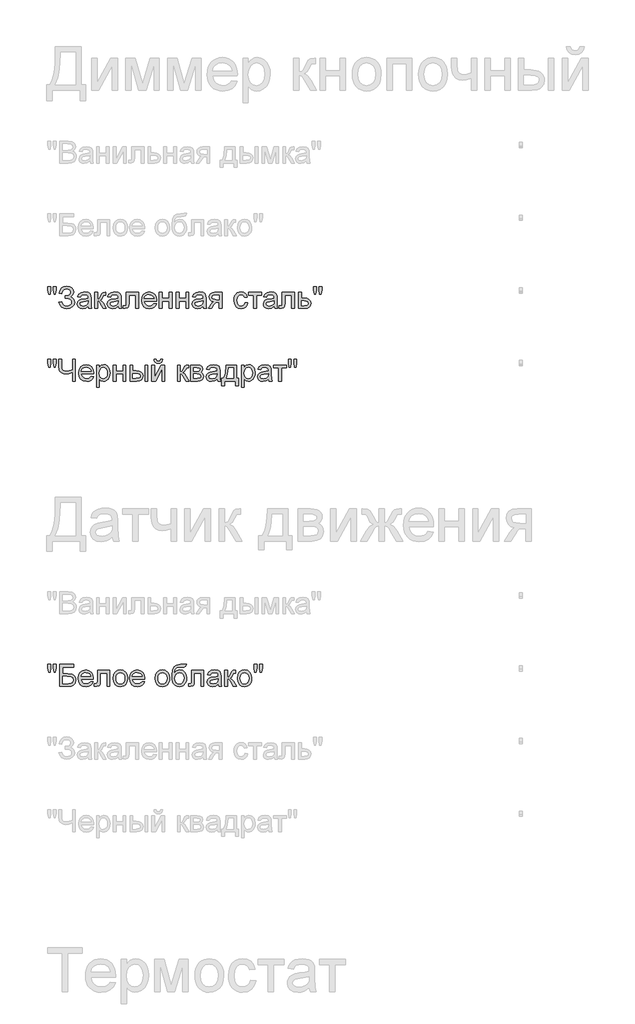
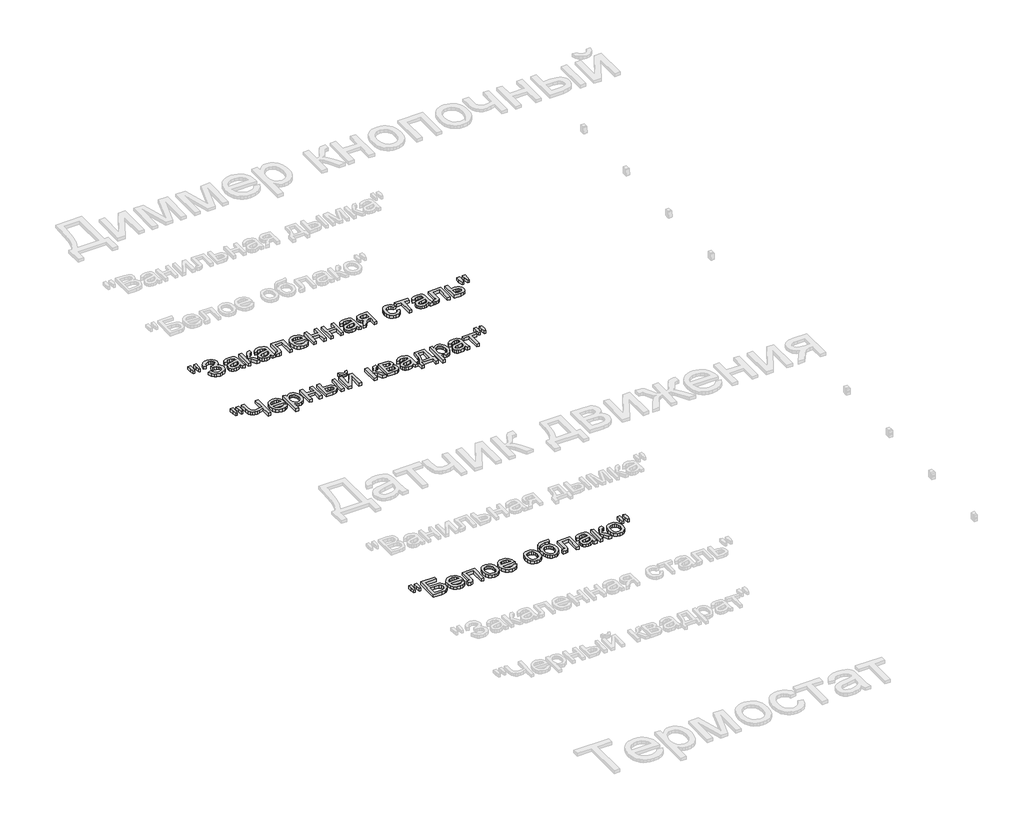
# One storey, part 14 of 168: 3 proxies.
"""IFC4 building model written with IfcOpenShell, lengths in millimetres."""

from ifc_helpers import new_model, si_unit, origin, origin_with_axes, place, context, project, spatial, polyline, outline, extrude, element, save

model = new_model("IFC4")

# Units and contexts
model_context = context("Model", 3, world=origin())
ifc_project = project(units=[si_unit("LENGTHUNIT", "METRE", prefix="MILLI")], contexts=[model_context])

# Site, building, storey
site = spatial("IfcSite", under=ifc_project)
building = spatial("IfcBuilding", under=site)
storey = spatial("IfcBuildingStorey", under=building, Name="Этаж 01", Elevation=0.0)

# Proxies
placement = place(None, origin())
element("IfcBuildingElementProxy", 1, Name="150", ObjectType="150", at=placement, inside=storey, context=model_context, shape_type="SweptSolid", body=[
    extrude(outline(polyline([(32880.1485789, -48369.2611657), (32875.550054, -48340.1616998), (32875.550054, -48315.108936), (32894.3856121, -48315.108936), (32894.3856121, -48340.1616998), (32890.2653338, -48369.2611657), (32880.1485789, -48369.2611657)])), origin_with_axes(), (0.0, 0.0, 1.0), 20.0),
    extrude(outline(polyline([(32917.7093306, -48369.2611657), (32913.2211703, -48340.1616998), (32913.2211703, -48315.108936), (32932.0567284, -48315.108936), (32932.0567284, -48340.1616998), (32927.6421445, -48369.2611657), (32917.7093306, -48369.2611657)])), origin_with_axes(), (0.0, 0.0, 1.0), 20.0),
    extrude(outline(polyline([(32950.8922866, -48423.4133953), (32969.7278447, -48418.7045058), (32981.2977335, -48439.1035624), (32992.2284273, -48446.7601065), (33006.2217387, -48449.3122878), (33020.398991, -48447.3947029), (33031.2193202, -48441.6419482), (33038.0757209, -48433.1760638), (33040.3611878, -48423.1190897), (33037.8641888, -48412.5838691), (33030.3731916, -48404.4490785), (33018.5779752, -48399.2481468), (33003.1683181, -48397.5145029), (32993.2722924, -48397.5145029), (32993.2722924, -48378.6789447), (33014.591054, -48377.1522345), (33027.6324708, -48369.3531362), (33033.2978535, -48355.0977088), (33031.4124583, -48346.2271542), (33025.7562726, -48338.5982014), (33016.8811195, -48333.3420874), (33005.3388219, -48331.5900493), (32986.1169876, -48336.9795206), (32975.117316, -48351.2717361), (32972.0822895, -48364.5522761), (32953.2467313, -48359.8433866), (32959.0983543, -48339.2419948), (32969.7002536, -48324.526715), (32985.0524291, -48315.6975472), (33005.1548809, -48312.7544912), (33024.5468605, -48315.8125103), (33039.4598769, -48324.9865675), (33048.965028, -48338.253312), (33052.1334117, -48353.5893927), (33047.2037929, -48372.2318128), (33032.4149367, -48386.1469492), (33042.8903765, -48390.9708019), (33051.5080123, -48399.1147896), (33057.2745625, -48409.8799364), (33059.196746, -48422.5672668), (33055.508729, -48440.404945), (33044.444678, -48455.069641), (33027.2921799, -48464.8782947), (33005.3388219, -48468.147846), (32986.2365493, -48465.3519428), (32970.7947025, -48456.9642333), (32959.0132816, -48442.9847175), (32950.8922866, -48423.4133953)])), origin_with_axes(), (0.0, 0.0, 1.0), 20.0),
    extrude(outline(polyline([(33153.3745367, -48451.6667326), (33135.1091957, -48464.4322378), (33114.9308682, -48468.147846), (33099.1901174, -48465.9129628), (33087.5788419, -48459.2083135), (33080.4189386, -48449.0271793), (33078.0323041, -48436.3628416), (33081.6375477, -48421.4636208), (33091.110509, -48410.6478901), (33104.2990786, -48404.4674726), (33120.596251, -48401.6347812), (33153.2641721, -48395.1600581), (33153.3745367, -48390.9662034), (33152.0777527, -48382.5600998), (33148.1874006, -48377.060264), (33139.4869914, -48372.9767738), (33127.3652797, -48371.6156104), (33108.3089923, -48375.2392481), (33099.222307, -48388.0967238), (33080.3867489, -48385.742279), (33088.5353351, -48367.3481793), (33104.9428721, -48356.5692368), (33129.7933008, -48352.7800523), (33152.6203786, -48356.1277784), (33165.5146426, -48364.533882), (33171.2903899, -48377.3177814), (33172.2100949, -48393.7988947), (33172.2100949, -48417.2329778), (33173.1665881, -48449.9560813), (33176.9189844, -48465.7934012), (33158.0834263, -48465.7934012), (33153.3745367, -48451.6667326)]), holes=[polyline([(33153.3745367, -48413.9956163), (33122.9874839, -48419.7713636), (33106.782282, -48422.8247842), (33099.4430362, -48427.7911911), (33096.8678623, -48435.0384664), (33102.4780627, -48445.2287977), (33118.940782, -48449.3122878), (33137.9970693, -48444.8057334), (33150.284328, -48433.8980322), (33153.2641721, -48419.3299052), (33153.3745367, -48413.9956163)])]), origin_with_axes(), (0.0, 0.0, 1.0), 20.0),
    extrude(outline(polyline([(33198.1089873, -48355.134497), (33216.9445455, -48355.134497), (33216.9445455, -48402.2233924), (33229.5628979, -48398.8388781), (33239.900382, -48379.1204031), (33248.4904266, -48362.1058608), (33256.0687957, -48356.5692368), (33269.8459764, -48355.134497), (33273.4512199, -48355.134497), (33273.4512199, -48374.0804198), (33268.3744484, -48373.9700552), (33259.1773985, -48375.956618), (33252.7026754, -48388.3542412), (33245.1059122, -48401.7635399), (33234.4557285, -48408.3302335), (33246.3383169, -48415.6602823), (33258.0001762, -48431.102129), (33278.1601095, -48465.7934012), (33256.7493774, -48465.7934012), (33236.9941142, -48431.837893), (33227.0613004, -48417.4721011), (33216.9445455, -48413.9956163), (33216.9445455, -48465.7934012), (33198.1089873, -48465.7934012), (33198.1089873, -48355.134497)])), origin_with_axes(), (0.0, 0.0, 1.0), 20.0),
    extrude(outline(polyline([(33360.5656764, -48451.6667326), (33342.3003353, -48464.4322378), (33322.1220079, -48468.147846), (33306.381257, -48465.9129628), (33294.7699816, -48459.2083135), (33287.6100782, -48449.0271793), (33285.2234438, -48436.3628416), (33288.8286873, -48421.4636208), (33298.3016487, -48410.6478901), (33311.4902183, -48404.4674726), (33327.7873906, -48401.6347812), (33360.4553118, -48395.1600581), (33360.5656764, -48390.9662034), (33359.2688924, -48382.5600998), (33355.3785403, -48377.060264), (33346.6781311, -48372.9767738), (33334.5564193, -48371.6156104), (33315.500132, -48375.2392481), (33306.4134467, -48388.0967238), (33287.5778886, -48385.742279), (33295.7264748, -48367.3481793), (33312.1340117, -48356.5692368), (33336.9844405, -48352.7800523), (33359.8115183, -48356.1277784), (33372.7057822, -48364.533882), (33378.4815296, -48377.3177814), (33379.4012346, -48393.7988947), (33379.4012346, -48417.2329778), (33380.3577277, -48449.9560813), (33384.1101241, -48465.7934012), (33365.2745659, -48465.7934012), (33360.5656764, -48451.6667326)]), holes=[polyline([(33360.5656764, -48413.9956163), (33330.1786236, -48419.7713636), (33313.9734217, -48422.8247842), (33306.6341759, -48427.7911911), (33304.0590019, -48435.0384664), (33309.6692024, -48445.2287977), (33326.1319217, -48449.3122878), (33345.188209, -48444.8057334), (33357.4754676, -48433.8980322), (33360.4553118, -48419.3299052), (33360.5656764, -48413.9956163)])]), origin_with_axes(), (0.0, 0.0, 1.0), 20.0),
    extrude(outline(polyline([(33414.7179061, -48355.134497), (33499.4779178, -48355.134497), (33499.4779178, -48465.6830366), (33480.6423596, -48465.6830366), (33480.6423596, -48373.9700552), (33433.5534643, -48373.9700552), (33433.5534643, -48426.7611215), (33432.2842714, -48451.1149096), (33425.3129076, -48461.3972113), (33408.8317942, -48465.7934012), (33393.5279032, -48464.836908), (33393.5279032, -48446.957843), (33401.9524009, -48446.957843), (33410.4688691, -48445.7990148), (33413.8717775, -48442.1201948), (33414.7179061, -48425.6942637), (33414.7179061, -48355.134497)])), origin_with_axes(), (0.0, 0.0, 1.0), 20.0),
    extrude(outline(polyline([(33605.2072032, -48432.8311744), (33623.6748794, -48435.1856192), (33617.0208138, -48449.1007557), (33606.4028197, -48459.5026191), (33592.0600204, -48465.9865392), (33574.2315392, -48468.147846), (33552.1310283, -48464.4184422), (33535.1256831, -48453.2302311), (33524.2823613, -48435.3097794), (33520.6679207, -48411.3836541), (33524.3191495, -48386.652787), (33535.2728359, -48368.1575197), (33552.0482549, -48356.6244191), (33573.1646814, -48352.7800523), (33593.6235189, -48356.6152221), (33609.971275, -48368.1207315), (33620.6904367, -48386.5792106), (33624.2634906, -48411.2732895), (33624.153126, -48416.350061), (33539.5034789, -48416.350061), (33542.763833, -48430.4491385), (33550.3376036, -48440.8142137), (33561.2682974, -48447.1877693), (33574.5994212, -48449.3122878), (33593.0670974, -48445.3759505), (33605.2072032, -48432.8311744)]), holes=[polyline([(33539.5034789, -48397.5145029), (33605.4279324, -48397.5145029), (33602.8803496, -48387.5632949), (33597.8863515, -48380.4447783), (33586.9050739, -48373.8229024), (33573.091105, -48371.6156104), (33560.3945777, -48373.3768455), (33549.8961452, -48378.6605506), (33542.5982861, -48386.8965088), (33539.5034789, -48397.5145029)])]), origin_with_axes(), (0.0, 0.0, 1.0), 20.0),
    extrude(outline(polyline([(33643.0990487, -48355.134497), (33661.9346069, -48355.134497), (33661.9346069, -48397.5145029), (33711.377947, -48397.5145029), (33711.377947, -48355.134497), (33730.2135052, -48355.134497), (33730.2135052, -48465.7934012), (33711.377947, -48465.7934012), (33711.377947, -48416.350061), (33661.9346069, -48416.350061), (33661.9346069, -48465.7934012), (33643.0990487, -48465.7934012), (33643.0990487, -48355.134497)])), origin_with_axes(), (0.0, 0.0, 1.0), 20.0),
    extrude(outline(polyline([(33758.4668424, -48355.134497), (33777.3024005, -48355.134497), (33777.3024005, -48397.5145029), (33826.7457407, -48397.5145029), (33826.7457407, -48355.134497), (33845.5812988, -48355.134497), (33845.5812988, -48465.7934012), (33826.7457407, -48465.7934012), (33826.7457407, -48416.350061), (33777.3024005, -48416.350061), (33777.3024005, -48465.7934012), (33758.4668424, -48465.7934012), (33758.4668424, -48355.134497)])), origin_with_axes(), (0.0, 0.0, 1.0), 20.0),
    extrude(outline(polyline([(33944.4679792, -48451.6667326), (33926.2026381, -48464.4322378), (33906.0243107, -48468.147846), (33890.2835598, -48465.9129628), (33878.6722843, -48459.2083135), (33871.512381, -48449.0271793), (33869.1257465, -48436.3628416), (33872.7309901, -48421.4636208), (33882.2039515, -48410.6478901), (33895.392521, -48404.4674726), (33911.6896934, -48401.6347812), (33944.3576146, -48395.1600581), (33944.4679792, -48390.9662034), (33943.1711951, -48382.5600998), (33939.280843, -48377.060264), (33930.5804338, -48372.9767738), (33918.4587221, -48371.6156104), (33899.4024347, -48375.2392481), (33890.3157495, -48388.0967238), (33871.4801913, -48385.742279), (33879.6287775, -48367.3481793), (33896.0363145, -48356.5692368), (33920.8867433, -48352.7800523), (33943.7138211, -48356.1277784), (33956.608085, -48364.533882), (33962.3838323, -48377.3177814), (33963.3035373, -48393.7988947), (33963.3035373, -48417.2329778), (33964.2600305, -48449.9560813), (33968.0124268, -48465.7934012), (33949.1768687, -48465.7934012), (33944.4679792, -48451.6667326)]), holes=[polyline([(33944.4679792, -48413.9956163), (33914.0809264, -48419.7713636), (33897.8757245, -48422.8247842), (33890.5364787, -48427.7911911), (33887.9613047, -48435.0384664), (33893.5715051, -48445.2287977), (33910.0342244, -48449.3122878), (33929.0905118, -48444.8057334), (33941.3777704, -48433.8980322), (33944.3576146, -48419.3299052), (33944.4679792, -48413.9956163)])]), origin_with_axes(), (0.0, 0.0, 1.0), 20.0),
    extrude(outline(polyline([(34073.9624415, -48355.134497), (34073.9624415, -48465.7934012), (34055.1268833, -48465.7934012), (34055.1268833, -48423.4133953), (34044.8629756, -48423.4133953), (34030.8834598, -48425.8046283), (34017.7500726, -48441.8810715), (34002.7404872, -48465.7934012), (33980.9618731, -48465.7934012), (33999.8710076, -48435.5535012), (34008.2219289, -48424.7009823), (34015.9106626, -48419.8817282), (34003.0347928, -48415.9361938), (33993.9848957, -48408.4405981), (33988.6322127, -48398.4709961), (33986.847985, -48387.1034424), (33989.2852032, -48374.2091785), (33996.5968579, -48364.0004531), (34008.5254316, -48357.3509861), (34024.8134069, -48355.134497), (34073.9624415, -48355.134497)]), holes=[polyline([(34055.1268833, -48373.9700552), (34030.2948486, -48373.9700552), (34017.4695626, -48375.0599056), (34010.1900976, -48378.3294568), (34005.6835431, -48388.5381822), (34007.3436107, -48395.7164796), (34012.3238132, -48400.6966821), (34035.8498668, -48404.5778372), (34055.1268833, -48404.5778372), (34055.1268833, -48373.9700552)])]), origin_with_axes(), (0.0, 0.0, 1.0), 20.0),
    extrude(outline(polyline([(34231.710241, -48425.7678401), (34250.5457991, -48428.1222849), (34245.2942837, -48444.8747112), (34235.4258491, -48457.5344504), (34221.8693976, -48465.4944971), (34205.5538311, -48468.147846), (34185.518058, -48464.4460334), (34169.8508835, -48453.3405957), (34159.7387272, -48435.3189764), (34156.3680084, -48410.8686193), (34157.8073467, -48394.1069959), (34162.1253616, -48379.5802556), (34169.391031, -48367.8494185), (34179.6733328, -48359.4755046), (34191.974387, -48354.4539153), (34205.2963137, -48352.7800523), (34221.2118085, -48355.0793147), (34233.9359271, -48361.9771022), (34243.0639991, -48373.1055325), (34248.1913544, -48388.0967238), (34229.3557962, -48390.4511686), (34220.6185988, -48376.3428941), (34205.4434665, -48371.6156104), (34193.271171, -48373.942464), (34183.6096701, -48380.9230249), (34177.3050924, -48392.934372), (34175.2035665, -48410.3535845), (34177.2591072, -48428.0073218), (34183.4257291, -48440.0600556), (34192.9124861, -48446.9992298), (34204.9284317, -48449.3122878), (34214.6819031, -48447.868351), (34222.678738, -48443.5365405), (34228.4958721, -48436.2064917), (34231.710241, -48425.7678401)])), origin_with_axes(), (0.0, 0.0, 1.0), 20.0),
    extrude(outline(polyline([(34257.6091334, -48355.134497), (34347.0780347, -48355.134497), (34347.0780347, -48373.9700552), (34311.7613631, -48373.9700552), (34311.7613631, -48465.7934012), (34292.925805, -48465.7934012), (34292.925805, -48373.9700552), (34257.6091334, -48373.9700552), (34257.6091334, -48355.134497)])), origin_with_axes(), (0.0, 0.0, 1.0), 20.0),
    extrude(outline(polyline([(34434.1924911, -48451.6667326), (34415.9271501, -48464.4322378), (34395.7488226, -48468.147846), (34380.0080718, -48465.9129628), (34368.3967963, -48459.2083135), (34361.236893, -48449.0271793), (34358.8502585, -48436.3628416), (34362.4555021, -48421.4636208), (34371.9284634, -48410.6478901), (34385.117033, -48404.4674726), (34401.4142054, -48401.6347812), (34434.0821265, -48395.1600581), (34434.1924911, -48390.9662034), (34432.8957071, -48382.5600998), (34429.005355, -48377.060264), (34420.3049458, -48372.9767738), (34408.1832341, -48371.6156104), (34389.1269467, -48375.2392481), (34380.0402614, -48388.0967238), (34361.2047033, -48385.742279), (34369.3532895, -48367.3481793), (34385.7608265, -48356.5692368), (34410.6112552, -48352.7800523), (34433.438333, -48356.1277784), (34446.332597, -48364.533882), (34452.1083443, -48377.3177814), (34453.0280493, -48393.7988947), (34453.0280493, -48417.2329778), (34453.9845425, -48449.9560813), (34457.7369388, -48465.7934012), (34438.9013807, -48465.7934012), (34434.1924911, -48451.6667326)]), holes=[polyline([(34434.1924911, -48413.9956163), (34403.8054383, -48419.7713636), (34387.6002364, -48422.8247842), (34380.2609906, -48427.7911911), (34377.6858167, -48435.0384664), (34383.2960171, -48445.2287977), (34399.7587364, -48449.3122878), (34418.8150237, -48444.8057334), (34431.1022824, -48433.8980322), (34434.0821265, -48419.3299052), (34434.1924911, -48413.9956163)])]), origin_with_axes(), (0.0, 0.0, 1.0), 20.0),
    extrude(outline(polyline([(34488.3447208, -48355.134497), (34573.1047325, -48355.134497), (34573.1047325, -48465.6830366), (34554.2691744, -48465.6830366), (34554.2691744, -48373.9700552), (34507.180279, -48373.9700552), (34507.180279, -48426.7611215), (34505.9110861, -48451.1149096), (34498.9397223, -48461.3972113), (34482.4586089, -48465.7934012), (34467.1547179, -48464.836908), (34467.1547179, -48446.957843), (34475.5792156, -48446.957843), (34484.0956838, -48445.7990148), (34487.4985922, -48442.1201948), (34488.3447208, -48425.6942637), (34488.3447208, -48355.134497)])), origin_with_axes(), (0.0, 0.0, 1.0), 20.0),
    extrude(outline(polyline([(34601.3580697, -48355.134497), (34620.1936279, -48355.134497), (34620.1936279, -48395.1600581), (34641.8986656, -48395.1600581), (34660.7158297, -48397.5191014), (34674.6401632, -48404.5962313), (34683.2486019, -48415.8212307), (34686.1180814, -48430.6238825), (34683.6762647, -48444.102159), (34676.3508145, -48455.4743112), (34663.6542871, -48463.2136287), (34645.099239, -48465.7934012), (34601.3580697, -48465.7934012), (34601.3580697, -48355.134497)]), holes=[polyline([(34620.1936279, -48446.957843), (34637.7783873, -48446.957843), (34660.4951005, -48443.0031116), (34665.5856676, -48437.9401356), (34667.2825233, -48430.6606707), (34662.260934, -48419.0723878), (34654.1905228, -48415.2648092), (34640.0224674, -48413.9956163), (34620.1936279, -48413.9956163), (34620.1936279, -48446.957843)])]), origin_with_axes(), (0.0, 0.0, 1.0), 20.0),
    extrude(outline(polyline([(34709.5521645, -48369.2611657), (34704.9536396, -48340.1616998), (34704.9536396, -48315.108936), (34723.7891977, -48315.108936), (34723.7891977, -48340.1616998), (34719.6689194, -48369.2611657), (34709.5521645, -48369.2611657)])), origin_with_axes(), (0.0, 0.0, 1.0), 20.0),
    extrude(outline(polyline([(34747.1129162, -48369.2611657), (34742.6247559, -48340.1616998), (34742.6247559, -48315.108936), (34761.460314, -48315.108936), (34761.460314, -48340.1616998), (34757.0457301, -48369.2611657), (34747.1129162, -48369.2611657)])), origin_with_axes(), (0.0, 0.0, 1.0), 20.0),
])
element("IfcBuildingElementProxy", 2, Name="150", ObjectType="150", at=placement, inside=storey, context=model_context, shape_type="SweptSolid", body=[
    extrude(outline(polyline([(32880.1485789, -48869.2611657), (32875.550054, -48840.1616998), (32875.550054, -48815.108936), (32894.3856121, -48815.108936), (32894.3856121, -48840.1616998), (32890.2653338, -48869.2611657), (32880.1485789, -48869.2611657)])), origin_with_axes(), (0.0, 0.0, 1.0), 20.0),
    extrude(outline(polyline([(32917.7093306, -48869.2611657), (32913.2211703, -48840.1616998), (32913.2211703, -48815.108936), (32932.0567284, -48815.108936), (32932.0567284, -48840.1616998), (32927.6421445, -48869.2611657), (32917.7093306, -48869.2611657)])), origin_with_axes(), (0.0, 0.0, 1.0), 20.0),
    extrude(outline(polyline([(33063.9056355, -48965.7934012), (33045.0700773, -48965.7934012), (33045.0700773, -48905.460754), (33020.0908899, -48913.6277343), (32998.4226404, -48916.350061), (32983.7395502, -48914.4876584), (32970.886673, -48908.9004506), (32960.926268, -48900.4483618), (32954.9205944, -48889.9913161), (32950.8922866, -48859.9905394), (32950.8922866, -48815.108936), (32969.7278447, -48815.108936), (32969.7278447, -48857.4521536), (32971.990319, -48877.8190206), (32978.7777418, -48889.7705869), (32988.7381468, -48895.5785239), (33000.5195677, -48897.5145029), (33022.2521966, -48895.1784522), (33045.0700773, -48888.1703002), (33045.0700773, -48815.108936), (33063.9056355, -48815.108936), (33063.9056355, -48965.7934012)])), origin_with_axes(), (0.0, 0.0, 1.0), 20.0),
    extrude(outline(polyline([(33171.9893657, -48932.8311744), (33190.4570418, -48935.1856192), (33183.8029763, -48949.1007557), (33173.1849822, -48959.5026191), (33158.8421829, -48965.9865392), (33141.0137017, -48968.147846), (33118.9131908, -48964.4184422), (33101.9078456, -48953.2302311), (33091.0645238, -48935.3097794), (33087.4500832, -48911.3836541), (33091.101312, -48886.652787), (33102.0549984, -48868.1575197), (33118.8304174, -48856.6244191), (33139.9468439, -48852.7800523), (33160.4056814, -48856.6152221), (33176.7534375, -48868.1207315), (33187.4725992, -48886.5792106), (33191.045653, -48911.2732895), (33190.9352884, -48916.350061), (33106.2856413, -48916.350061), (33109.5459955, -48930.4491385), (33117.1197661, -48940.8142137), (33128.0504599, -48947.1877693), (33141.3815837, -48949.3122878), (33159.8492598, -48945.3759505), (33171.9893657, -48932.8311744)]), holes=[polyline([(33106.2856413, -48897.5145029), (33172.2100949, -48897.5145029), (33169.6625121, -48887.5632949), (33164.668514, -48880.4447783), (33153.6872364, -48873.8229024), (33139.8732675, -48871.6156104), (33127.1767401, -48873.3768455), (33116.6783077, -48878.6605506), (33109.3804486, -48886.8965088), (33106.2856413, -48897.5145029)])]), origin_with_axes(), (0.0, 0.0, 1.0), 20.0),
    extrude(outline(polyline([(33209.8812112, -49008.173407), (33209.8812112, -48855.134497), (33228.7167693, -48855.134497), (33228.7167693, -48873.6021732), (33241.739792, -48857.9855825), (33259.3245513, -48852.7800523), (33272.0624654, -48854.6010681), (33283.2000928, -48860.0641158), (33292.268384, -48868.8381014), (33298.7982894, -48880.5919311), (33304.0590019, -48909.6178205), (33302.5736784, -48925.7264534), (33298.1177077, -48940.133632), (33290.8336442, -48952.108191), (33280.8640422, -48960.9189648), (33269.2527667, -48966.3406257), (33257.043683, -48968.147846), (33240.6545401, -48963.3101977), (33228.7167693, -48951.0781214), (33228.7167693, -49008.173407), (33209.8812112, -49008.173407)]), holes=[polyline([(33228.7167693, -48911.3468659), (33230.7539159, -48928.2326495), (33236.8653555, -48940.0416615), (33245.8830629, -48946.9946312), (33256.6390128, -48949.3122878), (33267.5697066, -48946.9118578), (33276.8173402, -48939.7105677), (33283.1219179, -48927.4692943), (33285.2234438, -48909.9489143), (33283.1725017, -48893.1551012), (33277.0196753, -48881.1805423), (33268.0157635, -48874.0068434), (33257.411565, -48871.6156104), (33246.7659797, -48874.1585947), (33237.4171785, -48881.7875476), (33230.8918716, -48894.2633458), (33228.7167693, -48911.3468659)])]), origin_with_axes(), (0.0, 0.0, 1.0), 20.0),
    extrude(outline(polyline([(33325.2490049, -48855.134497), (33344.084563, -48855.134497), (33344.084563, -48897.5145029), (33393.5279032, -48897.5145029), (33393.5279032, -48855.134497), (33412.3634613, -48855.134497), (33412.3634613, -48965.7934012), (33393.5279032, -48965.7934012), (33393.5279032, -48916.350061), (33344.084563, -48916.350061), (33344.084563, -48965.7934012), (33325.2490049, -48965.7934012), (33325.2490049, -48855.134497)])), origin_with_axes(), (0.0, 0.0, 1.0), 20.0),
    extrude(outline(polyline([(33544.2123684, -48855.134497), (33563.0479266, -48855.134497), (33563.0479266, -48965.7934012), (33544.2123684, -48965.7934012), (33544.2123684, -48855.134497)])), origin_with_axes(), (0.0, 0.0, 1.0), 20.0),
    extrude(outline(polyline([(33440.6167986, -48855.134497), (33459.4523567, -48855.134497), (33459.4523567, -48895.1600581), (33482.739287, -48895.1600581), (33502.8670307, -48897.5191014), (33517.780047, -48904.5962313), (33527.0092866, -48915.8212307), (33530.0856998, -48930.6238825), (33527.5059273, -48944.102159), (33519.7666098, -48955.4743112), (33506.3619096, -48963.2136287), (33486.785989, -48965.7934012), (33440.6167986, -48965.7934012), (33440.6167986, -48855.134497)]), holes=[polyline([(33459.4523567, -48946.957843), (33478.8029497, -48946.957843), (33503.7821371, -48943.0031116), (33509.3831405, -48937.9401356), (33511.2501416, -48930.6606707), (33505.7135176, -48919.0723878), (33496.8337659, -48915.2648092), (33481.267759, -48913.9956163), (33459.4523567, -48913.9956163), (33459.4523567, -48946.957843)])]), origin_with_axes(), (0.0, 0.0, 1.0), 20.0),
    extrude(outline(polyline([(33591.3012638, -48855.134497), (33610.1368219, -48855.134497), (33610.1368219, -48939.5266267), (33656.4163769, -48855.134497), (33680.770165, -48855.134497), (33680.770165, -48965.7934012), (33661.9346069, -48965.7934012), (33661.9346069, -48881.9163063), (33615.9493575, -48965.7934012), (33591.3012638, -48965.7934012), (33591.3012638, -48855.134497)])), origin_with_axes(), (0.0, 0.0, 1.0), 20.0),
    extrude(outline(polyline([(33652.5168278, -48815.108936), (33666.6434964, -48815.108936), (33663.6038714, -48827.1708669), (33657.5016288, -48836.0598156), (33648.6126801, -48841.5366588), (33637.2129368, -48843.3622732), (33624.8429047, -48841.5504544), (33615.2503817, -48836.1149979), (33608.6928851, -48827.2398448), (33605.4279324, -48815.108936), (33619.554601, -48815.108936), (33624.8521017, -48825.7223315), (33635.5206796, -48829.2356046), (33647.219327, -48825.8326961), (33652.5168278, -48815.108936)])), origin_with_axes(), (0.0, 0.0, 1.0), 20.0),
    extrude(outline(polyline([(33767.8846215, -48855.134497), (33786.7201796, -48855.134497), (33786.7201796, -48902.2233924), (33799.3385321, -48898.8388781), (33809.6760161, -48879.1204031), (33818.2660607, -48862.1058608), (33825.8444298, -48856.5692368), (33839.6216105, -48855.134497), (33843.2268541, -48855.134497), (33843.2268541, -48874.0804198), (33838.1500825, -48873.9700552), (33828.9530327, -48875.956618), (33822.4783096, -48888.3542412), (33814.8815464, -48901.7635399), (33804.2313626, -48908.3302335), (33816.113951, -48915.6602823), (33827.7758103, -48931.102129), (33847.9357436, -48965.7934012), (33826.5250115, -48965.7934012), (33806.7697484, -48931.837893), (33796.8369345, -48917.4721011), (33786.7201796, -48913.9956163), (33786.7201796, -48965.7934012), (33767.8846215, -48965.7934012), (33767.8846215, -48855.134497)])), origin_with_axes(), (0.0, 0.0, 1.0), 20.0),
    extrude(outline(polyline([(33859.7079675, -48855.134497), (33901.2050565, -48855.134497), (33923.9585579, -48857.6544887), (33936.7608514, -48866.8883268), (33942.1135344, -48882.9831641), (33938.8761728, -48896.061369), (33929.1273, -48905.3871776), (33941.7824406, -48915.5959029), (33946.8224239, -48933.3462092), (33943.6310476, -48947.7028041), (33936.0434815, -48957.8103619), (33924.0321343, -48963.7976414), (33907.569415, -48965.7934012), (33859.7079675, -48965.7934012), (33859.7079675, -48855.134497)]), holes=[polyline([(33878.5435256, -48897.5145029), (33897.1583546, -48897.5145029), (33912.5174279, -48896.5580097), (33919.9854324, -48892.7320369), (33923.2779762, -48885.8158554), (33921.8340394, -48880.196458), (33917.5022289, -48876.5820174), (33897.7469658, -48873.9700552), (33878.5435256, -48873.9700552), (33878.5435256, -48897.5145029)]), polyline([(33878.5435256, -48946.957843), (33901.6465149, -48946.957843), (33922.137542, -48943.5549346), (33926.377382, -48938.9150229), (33927.9868658, -48931.8011048), (33924.7678983, -48922.7328137), (33916.3801888, -48917.453707), (33899.8071049, -48916.350061), (33878.5435256, -48916.350061), (33878.5435256, -48946.957843)])]), origin_with_axes(), (0.0, 0.0, 1.0), 20.0),
    extrude(outline(polyline([(34041.0002147, -48951.6667326), (34022.7348736, -48964.4322378), (34002.5565462, -48968.147846), (33986.8157953, -48965.9129628), (33975.2045198, -48959.2083135), (33968.0446165, -48949.0271793), (33965.6579821, -48936.3628416), (33969.2632256, -48921.4636208), (33978.736187, -48910.6478901), (33991.9247565, -48904.4674726), (34008.2219289, -48901.6347812), (34040.8898501, -48895.1600581), (34041.0002147, -48890.9662034), (34039.7034307, -48882.5600998), (34035.8130786, -48877.060264), (34027.1126694, -48872.9767738), (34014.9909576, -48871.6156104), (33995.9346703, -48875.2392481), (33986.847985, -48888.0967238), (33968.0124268, -48885.742279), (33976.161013, -48867.3481793), (33992.56855, -48856.5692368), (34017.4189788, -48852.7800523), (34040.2460566, -48856.1277784), (34053.1403205, -48864.533882), (34058.9160679, -48877.3177814), (34059.8357728, -48893.7988947), (34059.8357728, -48917.2329778), (34060.792266, -48949.9560813), (34064.5446624, -48965.7934012), (34045.7091042, -48965.7934012), (34041.0002147, -48951.6667326)]), holes=[polyline([(34041.0002147, -48913.9956163), (34010.6131619, -48919.7713636), (33994.40796, -48922.8247842), (33987.0687142, -48927.7911911), (33984.4935402, -48935.0384664), (33990.1037407, -48945.2287977), (34006.5664599, -48949.3122878), (34025.6227473, -48944.8057334), (34037.9100059, -48933.8980322), (34040.8898501, -48919.3299052), (34041.0002147, -48913.9956163)])]), origin_with_axes(), (0.0, 0.0, 1.0), 20.0),
    extrude(outline(polyline([(34102.2157787, -48855.134497), (34172.8491218, -48855.134497), (34172.8491218, -48946.957843), (34186.9757904, -48946.957843), (34186.9757904, -48996.4011832), (34168.1402322, -48996.4011832), (34168.1402322, -48965.7934012), (34090.4435548, -48965.7934012), (34090.4435548, -48996.4011832), (34071.6079967, -48996.4011832), (34071.6079967, -48946.957843), (34083.3802205, -48946.957843), (34091.9380754, -48931.4930037), (34097.9299534, -48911.0341662), (34102.2157787, -48855.134497)]), holes=[polyline([(34118.6968921, -48873.9700552), (34114.2823081, -48916.8834899), (34104.5702235, -48946.957843), (34154.0135636, -48946.957843), (34154.0135636, -48873.9700552), (34118.6968921, -48873.9700552)])]), origin_with_axes(), (0.0, 0.0, 1.0), 20.0),
    extrude(outline(polyline([(34208.1657933, -49008.173407), (34208.1657933, -48855.134497), (34227.0013514, -48855.134497), (34227.0013514, -48873.6021732), (34240.0243741, -48857.9855825), (34257.6091334, -48852.7800523), (34270.3470475, -48854.6010681), (34281.4846749, -48860.0641158), (34290.5529661, -48868.8381014), (34297.0828715, -48880.5919311), (34302.3435841, -48909.6178205), (34300.8582605, -48925.7264534), (34296.4022898, -48940.133632), (34289.1182263, -48952.108191), (34279.1486243, -48960.9189648), (34267.5373488, -48966.3406257), (34255.3282651, -48968.147846), (34238.9391222, -48963.3101977), (34227.0013514, -48951.0781214), (34227.0013514, -49008.173407), (34208.1657933, -49008.173407)]), holes=[polyline([(34227.0013514, -48911.3468659), (34229.038498, -48928.2326495), (34235.1499376, -48940.0416615), (34244.167645, -48946.9946312), (34254.9235949, -48949.3122878), (34265.8542887, -48946.9118578), (34275.1019223, -48939.7105677), (34281.4065, -48927.4692943), (34283.5080259, -48909.9489143), (34281.4570838, -48893.1551012), (34275.3042574, -48881.1805423), (34266.3003456, -48874.0068434), (34255.6961471, -48871.6156104), (34245.0505618, -48874.1585947), (34235.7017606, -48881.7875476), (34229.1764537, -48894.2633458), (34227.0013514, -48911.3468659)])]), origin_with_axes(), (0.0, 0.0, 1.0), 20.0),
    extrude(outline(polyline([(34394.1669301, -48951.6667326), (34375.901589, -48964.4322378), (34355.7232616, -48968.147846), (34339.9825107, -48965.9129628), (34328.3712352, -48959.2083135), (34321.2113319, -48949.0271793), (34318.8246974, -48936.3628416), (34322.429941, -48921.4636208), (34331.9029024, -48910.6478901), (34345.0914719, -48904.4674726), (34361.3886443, -48901.6347812), (34394.0565655, -48895.1600581), (34394.1669301, -48890.9662034), (34392.870146, -48882.5600998), (34388.9797939, -48877.060264), (34380.2793847, -48872.9767738), (34368.157673, -48871.6156104), (34349.1013856, -48875.2392481), (34340.0147004, -48888.0967238), (34321.1791422, -48885.742279), (34329.3277284, -48867.3481793), (34345.7352654, -48856.5692368), (34370.5856942, -48852.7800523), (34393.412772, -48856.1277784), (34406.3070359, -48864.533882), (34412.0827832, -48877.3177814), (34413.0024882, -48893.7988947), (34413.0024882, -48917.2329778), (34413.9589814, -48949.9560813), (34417.7113777, -48965.7934012), (34398.8758196, -48965.7934012), (34394.1669301, -48951.6667326)]), holes=[polyline([(34394.1669301, -48913.9956163), (34363.7798773, -48919.7713636), (34347.5746754, -48922.8247842), (34340.2354296, -48927.7911911), (34337.6602556, -48935.0384664), (34343.270456, -48945.2287977), (34359.7331753, -48949.3122878), (34378.7894627, -48944.8057334), (34391.0767213, -48933.8980322), (34394.0565655, -48919.3299052), (34394.1669301, -48913.9956163)])]), origin_with_axes(), (0.0, 0.0, 1.0), 20.0),
    extrude(outline(polyline([(34429.4836016, -48855.134497), (34518.9525028, -48855.134497), (34518.9525028, -48873.9700552), (34483.6358313, -48873.9700552), (34483.6358313, -48965.7934012), (34464.8002731, -48965.7934012), (34464.8002731, -48873.9700552), (34429.4836016, -48873.9700552), (34429.4836016, -48855.134497)])), origin_with_axes(), (0.0, 0.0, 1.0), 20.0),
    extrude(outline(polyline([(34535.3232516, -48869.2611657), (34530.7247267, -48840.1616998), (34530.7247267, -48815.108936), (34549.5602848, -48815.108936), (34549.5602848, -48840.1616998), (34545.4400065, -48869.2611657), (34535.3232516, -48869.2611657)])), origin_with_axes(), (0.0, 0.0, 1.0), 20.0),
    extrude(outline(polyline([(34572.8840033, -48869.2611657), (34568.395843, -48840.1616998), (34568.395843, -48815.108936), (34587.2314011, -48815.108936), (34587.2314011, -48840.1616998), (34582.8168172, -48869.2611657), (34572.8840033, -48869.2611657)])), origin_with_axes(), (0.0, 0.0, 1.0), 20.0),
])
element("IfcBuildingElementProxy", 3, Name="150", ObjectType="150", at=placement, inside=storey, context=model_context, shape_type="SweptSolid", body=[
    extrude(outline(polyline([(32880.1485789, -50969.2611657), (32875.550054, -50940.1616998), (32875.550054, -50915.108936), (32894.3856121, -50915.108936), (32894.3856121, -50940.1616998), (32890.2653338, -50969.2611657), (32880.1485789, -50969.2611657)])), origin_with_axes(), (0.0, 0.0, 1.0), 20.0),
    extrude(outline(polyline([(32917.7093306, -50969.2611657), (32913.2211703, -50940.1616998), (32913.2211703, -50915.108936), (32932.0567284, -50915.108936), (32932.0567284, -50940.1616998), (32927.6421445, -50969.2611657), (32917.7093306, -50969.2611657)])), origin_with_axes(), (0.0, 0.0, 1.0), 20.0),
    extrude(outline(polyline([(32957.9556209, -50915.108936), (33052.1334117, -50915.108936), (33052.1334117, -50933.9444941), (32976.791179, -50933.9444941), (32976.791179, -50978.6789447), (33012.0710624, -50978.6789447), (33043.157091, -50982.5049175), (33053.5589544, -50988.0323445), (33061.6615553, -50996.9626799), (33066.8762826, -51008.4589922), (33068.614525, -51021.68435), (33063.6665122, -51043.1502644), (33048.8960501, -51059.4658309), (33035.6247071, -51064.2115086), (33015.4555767, -51065.7934012), (32957.9556209, -51065.7934012), (32957.9556209, -50915.108936)]), holes=[polyline([(32976.791179, -51046.957843), (33017.1478339, -51046.957843), (33031.4124583, -51045.4035416), (33041.6119866, -51040.7406373), (33047.7372218, -51032.9691302), (33049.7789669, -51022.0890202), (33045.1068655, -51007.3369522), (33032.102237, -50999.4642775), (33003.7201411, -50997.5145029), (32976.791179, -50997.5145029), (32976.791179, -51046.957843)])]), origin_with_axes(), (0.0, 0.0, 1.0), 20.0),
    extrude(outline(polyline([(33169.6349209, -51032.8311744), (33188.1025971, -51035.1856192), (33181.4485315, -51049.1007557), (33170.8305374, -51059.5026191), (33156.4877381, -51065.9865392), (33138.6592569, -51068.147846), (33116.5587461, -51064.4184422), (33099.5534008, -51053.2302311), (33088.710079, -51035.3097794), (33085.0956384, -51011.3836541), (33088.7468672, -50986.652787), (33099.7005536, -50968.1575197), (33116.4759726, -50956.6244191), (33137.5923991, -50952.7800523), (33158.0512366, -50956.6152221), (33174.3989927, -50968.1207315), (33185.1181544, -50986.5792106), (33188.6912083, -51011.2732895), (33188.5808437, -51016.350061), (33103.9311966, -51016.350061), (33107.1915508, -51030.4491385), (33114.7653213, -51040.8142137), (33125.6960151, -51047.1877693), (33139.0271389, -51049.3122878), (33157.4948151, -51045.3759505), (33169.6349209, -51032.8311744)]), holes=[polyline([(33103.9311966, -50997.5145029), (33169.8556501, -50997.5145029), (33167.3080673, -50987.5632949), (33162.3140692, -50980.4447783), (33151.3327917, -50973.8229024), (33137.5188227, -50971.6156104), (33124.8222954, -50973.3768455), (33114.3238629, -50978.6605506), (33107.0260039, -50986.8965088), (33103.9311966, -50997.5145029)])]), origin_with_axes(), (0.0, 0.0, 1.0), 20.0),
    extrude(outline(polyline([(33216.9445455, -50955.134497), (33301.7045572, -50955.134497), (33301.7045572, -51065.6830366), (33282.868999, -51065.6830366), (33282.868999, -50973.9700552), (33235.7801036, -50973.9700552), (33235.7801036, -51026.7611215), (33234.5109108, -51051.1149096), (33227.539547, -51061.3972113), (33211.0584336, -51065.7934012), (33195.7545426, -51064.836908), (33195.7545426, -51046.957843), (33204.1790403, -51046.957843), (33212.6955084, -51045.7990148), (33216.0984169, -51042.1201948), (33216.9445455, -51025.6942637), (33216.9445455, -50955.134497)])), origin_with_axes(), (0.0, 0.0, 1.0), 20.0),
    extrude(outline(polyline([(33325.2490049, -51010.4639491), (33329.323298, -50983.7833074), (33341.5461773, -50965.0305227), (33356.6477332, -50955.8426699), (33374.7291332, -50952.7800523), (33394.516586, -50956.509456), (33410.3217163, -50967.6976672), (33420.6821929, -50985.461769), (33424.1356852, -51008.9188447), (33422.6089749, -51027.9475409), (33418.0288441, -51042.4328945), (33410.5286499, -51053.2808148), (33400.2417496, -51061.3972113), (33388.0234688, -51066.4601873), (33374.7291332, -51068.147846), (33354.7025571, -51064.4322378), (33338.915821, -51053.2854134), (33328.6657089, -51035.148831), (33325.2490049, -51010.4639491)]), holes=[polyline([(33344.084563, -51010.4271609), (33346.2642638, -51027.4738929), (33352.8033663, -51039.6185972), (33362.6442097, -51046.8888652), (33374.7291332, -51049.3122878), (33386.7588745, -51046.8750696), (33396.5813237, -51039.5634149), (33403.1204262, -51027.2577622), (33405.300127, -51009.8385497), (33403.1066306, -50993.2884585), (33396.5261414, -50981.309301), (33386.6898966, -50974.0390331), (33374.7291332, -50971.6156104), (33362.6442097, -50974.029836), (33352.8033663, -50981.2725128), (33346.2642638, -50993.389626), (33344.084563, -51010.4271609)])]), origin_with_axes(), (0.0, 0.0, 1.0), 20.0),
    extrude(outline(polyline([(33522.8016363, -51032.8311744), (33541.2693124, -51035.1856192), (33534.6152469, -51049.1007557), (33523.9972528, -51059.5026191), (33509.6544535, -51065.9865392), (33491.8259723, -51068.147846), (33469.7254614, -51064.4184422), (33452.7201162, -51053.2302311), (33441.8767944, -51035.3097794), (33438.2623538, -51011.3836541), (33441.9135826, -50986.652787), (33452.867269, -50968.1575197), (33469.642688, -50956.6244191), (33490.7591145, -50952.7800523), (33511.217952, -50956.6152221), (33527.5657081, -50968.1207315), (33538.2848698, -50986.5792106), (33541.8579236, -51011.2732895), (33541.747559, -51016.350061), (33457.0979119, -51016.350061), (33460.3582661, -51030.4491385), (33467.9320367, -51040.8142137), (33478.8627305, -51047.1877693), (33492.1938543, -51049.3122878), (33510.6615304, -51045.3759505), (33522.8016363, -51032.8311744)]), holes=[polyline([(33457.0979119, -50997.5145029), (33523.0223655, -50997.5145029), (33520.4747827, -50987.5632949), (33515.4807846, -50980.4447783), (33504.499507, -50973.8229024), (33490.6855381, -50971.6156104), (33477.9890107, -50973.3768455), (33467.4905783, -50978.6605506), (33460.1927192, -50986.8965088), (33457.0979119, -50997.5145029)])]), origin_with_axes(), (0.0, 0.0, 1.0), 20.0),
    extrude(outline(polyline([(33614.8457115, -51010.4639491), (33618.9200046, -50983.7833074), (33631.1428839, -50965.0305227), (33646.2444398, -50955.8426699), (33664.3258398, -50952.7800523), (33684.1132926, -50956.509456), (33699.9184229, -50967.6976672), (33710.2788995, -50985.461769), (33713.7323918, -51008.9188447), (33712.2056815, -51027.9475409), (33707.6255507, -51042.4328945), (33700.1253565, -51053.2808148), (33689.8384562, -51061.3972113), (33677.6201754, -51066.4601873), (33664.3258398, -51068.147846), (33644.2992637, -51064.4322378), (33628.5125276, -51053.2854134), (33618.2624155, -51035.148831), (33614.8457115, -51010.4639491)]), holes=[polyline([(33633.6812696, -51010.4271609), (33635.8609704, -51027.4738929), (33642.4000729, -51039.6185972), (33652.2409163, -51046.8888652), (33664.3258398, -51049.3122878), (33676.3555811, -51046.8750696), (33686.1780303, -51039.5634149), (33692.7171328, -51027.2577622), (33694.8968336, -51009.8385497), (33692.7033372, -50993.2884585), (33686.122848, -50981.309301), (33676.2866032, -50974.0390331), (33664.3258398, -50971.6156104), (33652.2409163, -50974.029836), (33642.4000729, -50981.2725128), (33635.8609704, -50993.389626), (33633.6812696, -51010.4271609)])]), origin_with_axes(), (0.0, 0.0, 1.0), 20.0),
    extrude(outline(polyline([(33812.6190721, -50912.7544912), (33829.1001855, -50912.7544912), (33824.2441431, -50927.4513769), (33814.6424231, -50932.7672717), (33791.576222, -50933.9444941), (33760.5085875, -50938.2855017), (33753.3808738, -50943.9324903), (33748.5892108, -50952.1914411), (33744.560903, -50976.8027466), (33760.8764695, -50958.7765288), (33770.7954878, -50954.2791714), (33781.9009255, -50952.7800523), (33801.4998388, -50956.5922294), (33817.401538, -50968.028761), (33827.9413572, -50985.9676068), (33831.4546302, -51009.2867267), (33829.7117893, -51027.2669592), (33824.4832664, -51041.6971305), (33807.9469707, -51061.2500585), (33796.6529935, -51066.4233991), (33781.9009255, -51068.147846), (33764.9001788, -51065.9267584), (33752.1576662, -51059.2634958), (33742.7812738, -51049.1375439), (33735.8788879, -51036.5283885), (33731.6298508, -51017.541079), (33730.2135052, -50988.2806648), (33733.786559, -50952.1408573), (33744.5057207, -50930.1001273), (33762.6377045, -50918.8567338), (33788.449225, -50915.108936), (33809.4184987, -50914.6858717), (33812.6190721, -50912.7544912)]), holes=[polyline([(33812.6190721, -51008.6981155), (33810.577327, -50993.8770697), (33804.4520918, -50982.0082768), (33794.6112484, -50974.213777), (33781.4226789, -50971.6156104), (33767.6730893, -50974.3609298), (33757.473561, -50982.596888), (33751.1551877, -50995.422174), (33749.0490633, -51011.9354771), (33751.3759169, -51027.9429424), (33758.3564778, -51039.6921736), (33768.7491442, -51046.9072593), (33781.3123143, -51049.3122878), (33793.9398638, -51046.5301802), (33803.937057, -51038.1838575), (33810.4485683, -51025.2482068), (33812.6190721, -51008.6981155)])]), origin_with_axes(), (0.0, 0.0, 1.0), 20.0),
    extrude(outline(polyline([(33864.416857, -50955.134497), (33949.1768687, -50955.134497), (33949.1768687, -51065.6830366), (33930.3413105, -51065.6830366), (33930.3413105, -50973.9700552), (33883.2524152, -50973.9700552), (33883.2524152, -51026.7611215), (33881.9832223, -51051.1149096), (33875.0118585, -51061.3972113), (33858.5307451, -51065.7934012), (33843.2268541, -51064.836908), (33843.2268541, -51046.957843), (33851.6513518, -51046.957843), (33860.16782, -51045.7990148), (33863.5707284, -51042.1201948), (33864.416857, -51025.6942637), (33864.416857, -50955.134497)])), origin_with_axes(), (0.0, 0.0, 1.0), 20.0),
    extrude(outline(polyline([(34048.063549, -51051.6667326), (34029.7982079, -51064.4322378), (34009.6198805, -51068.147846), (33993.8791296, -51065.9129628), (33982.2678542, -51059.2083135), (33975.1079508, -51049.0271793), (33972.7213164, -51036.3628416), (33976.3265599, -51021.4636208), (33985.7995213, -51010.6478901), (33998.9880908, -51004.4674726), (34015.2852632, -51001.6347812), (34047.9531844, -50995.1600581), (34048.063549, -50990.9662034), (34046.766765, -50982.5600998), (34042.8764129, -50977.060264), (34034.1760037, -50972.9767738), (34022.0542919, -50971.6156104), (34002.9980046, -50975.2392481), (33993.9113193, -50988.0967238), (33975.0757612, -50985.742279), (33983.2243473, -50967.3481793), (33999.6318843, -50956.5692368), (34024.4823131, -50952.7800523), (34047.3093909, -50956.1277784), (34060.2036548, -50964.533882), (34065.9794022, -50977.3177814), (34066.8991071, -50993.7988947), (34066.8991071, -51017.2329778), (34067.8556003, -51049.9560813), (34071.6079967, -51065.7934012), (34052.7724385, -51065.7934012), (34048.063549, -51051.6667326)]), holes=[polyline([(34048.063549, -51013.9956163), (34017.6764962, -51019.7713636), (34001.4712943, -51022.8247842), (33994.1320485, -51027.7911911), (33991.5568745, -51035.0384664), (33997.167075, -51045.2287977), (34013.6297942, -51049.3122878), (34032.6860816, -51044.8057334), (34044.9733402, -51033.8980322), (34047.9531844, -51019.3299052), (34048.063549, -51013.9956163)])]), origin_with_axes(), (0.0, 0.0, 1.0), 20.0),
    extrude(outline(polyline([(34092.7979996, -50955.134497), (34111.6335578, -50955.134497), (34111.6335578, -51002.2233924), (34124.2519102, -50998.8388781), (34134.5893943, -50979.1204031), (34143.1794388, -50962.1058608), (34150.7578079, -50956.5692368), (34164.5349887, -50955.134497), (34168.1402322, -50955.134497), (34168.1402322, -50974.0804198), (34163.0634607, -50973.9700552), (34153.8664108, -50975.956618), (34147.3916877, -50988.3542412), (34139.7949245, -51001.7635399), (34129.1447407, -51008.3302335), (34141.0273292, -51015.6602823), (34152.6891884, -51031.102129), (34172.8491218, -51065.7934012), (34151.4383896, -51065.7934012), (34131.6831265, -51031.837893), (34121.7503126, -51017.4721011), (34111.6335578, -51013.9956163), (34111.6335578, -51065.7934012), (34092.7979996, -51065.7934012), (34092.7979996, -50955.134497)])), origin_with_axes(), (0.0, 0.0, 1.0), 20.0),
    extrude(outline(polyline([(34179.9124561, -51010.4639491), (34183.9867492, -50983.7833074), (34196.2096285, -50965.0305227), (34211.3111844, -50955.8426699), (34229.3925844, -50952.7800523), (34249.1800372, -50956.509456), (34264.9851674, -50967.6976672), (34275.3456441, -50985.461769), (34278.7991364, -51008.9188447), (34277.2724261, -51027.9475409), (34272.6922952, -51042.4328945), (34265.1921011, -51053.2808148), (34254.9052008, -51061.3972113), (34242.68692, -51066.4601873), (34229.3925844, -51068.147846), (34209.3660083, -51064.4322378), (34193.5792722, -51053.2854134), (34183.3291601, -51035.148831), (34179.9124561, -51010.4639491)]), holes=[polyline([(34198.7480142, -51010.4271609), (34200.927715, -51027.4738929), (34207.4668175, -51039.6185972), (34217.3076609, -51046.8888652), (34229.3925844, -51049.3122878), (34241.4223257, -51046.8750696), (34251.2447749, -51039.5634149), (34257.7838774, -51027.2577622), (34259.9635782, -51009.8385497), (34257.7700818, -50993.2884585), (34251.1895926, -50981.309301), (34241.3533478, -50974.0390331), (34229.3925844, -50971.6156104), (34217.3076609, -50974.029836), (34207.4668175, -50981.2725128), (34200.927715, -50993.389626), (34198.7480142, -51010.4271609)])]), origin_with_axes(), (0.0, 0.0, 1.0), 20.0),
    extrude(outline(polyline([(34299.8787747, -50969.2611657), (34295.2802498, -50940.1616998), (34295.2802498, -50915.108936), (34314.1158079, -50915.108936), (34314.1158079, -50940.1616998), (34309.9955296, -50969.2611657), (34299.8787747, -50969.2611657)])), origin_with_axes(), (0.0, 0.0, 1.0), 20.0),
    extrude(outline(polyline([(34337.4395264, -50969.2611657), (34332.9513661, -50940.1616998), (34332.9513661, -50915.108936), (34351.7869242, -50915.108936), (34351.7869242, -50940.1616998), (34347.3723403, -50969.2611657), (34337.4395264, -50969.2611657)])), origin_with_axes(), (0.0, 0.0, 1.0), 20.0),
])

save(model, "model.ifc")
